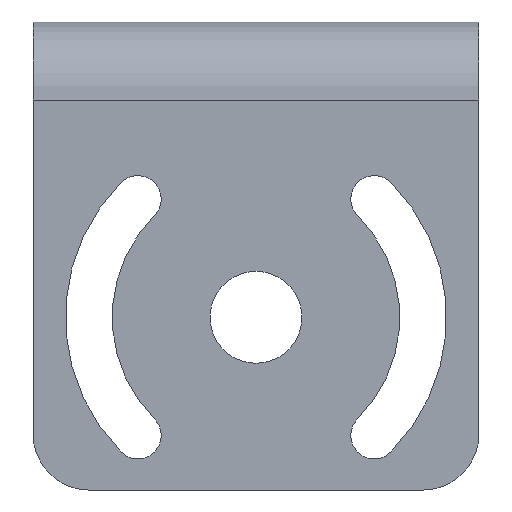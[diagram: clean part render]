
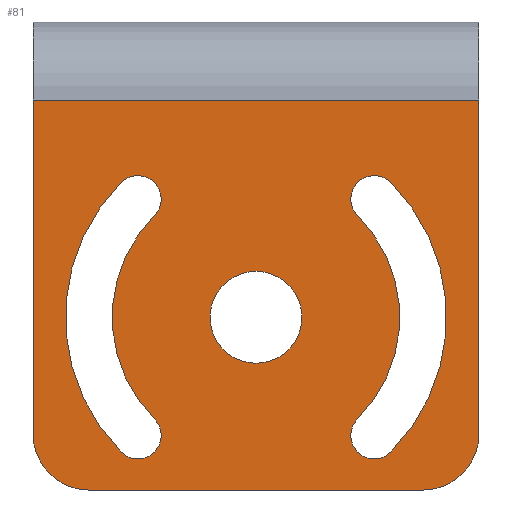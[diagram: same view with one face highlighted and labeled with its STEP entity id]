
A CAD part, left-side view. The second image highlights one B-rep face of the part: STEP entity #81.
In plain terms, the highlighted planar face has unit normal (-1, 0, 0).
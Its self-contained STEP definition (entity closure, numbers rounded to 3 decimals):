
#42=FACE_BOUND('',#170,.T.);
#43=FACE_BOUND('',#171,.T.);
#44=FACE_BOUND('',#172,.T.);
#45=FACE_BOUND('',#173,.T.);
#65=PLANE('',#732);
#81=ADVANCED_FACE('',(#42,#43,#44,#45),#65,.F.);
#170=EDGE_LOOP('',(#334));
#171=EDGE_LOOP('',(#335,#336,#337,#338));
#172=EDGE_LOOP('',(#339,#340,#341,#342));
#173=EDGE_LOOP('',(#343,#344,#345,#346,#347,#348));
#224=LINE('',#1066,#264);
#228=LINE('',#1098,#268);
#229=LINE('',#1102,#269);
#230=LINE('',#1104,#270);
#264=VECTOR('',#849,1.);
#268=VECTOR('',#879,1.);
#269=VECTOR('',#882,1.);
#270=VECTOR('',#883,1.);
#334=ORIENTED_EDGE('',*,*,#580,.T.);
#335=ORIENTED_EDGE('',*,*,#581,.T.);
#336=ORIENTED_EDGE('',*,*,#582,.T.);
#337=ORIENTED_EDGE('',*,*,#583,.T.);
#338=ORIENTED_EDGE('',*,*,#584,.T.);
#339=ORIENTED_EDGE('',*,*,#585,.T.);
#340=ORIENTED_EDGE('',*,*,#586,.T.);
#341=ORIENTED_EDGE('',*,*,#587,.T.);
#342=ORIENTED_EDGE('',*,*,#588,.T.);
#343=ORIENTED_EDGE('',*,*,#574,.T.);
#344=ORIENTED_EDGE('',*,*,#589,.T.);
#345=ORIENTED_EDGE('',*,*,#590,.T.);
#346=ORIENTED_EDGE('',*,*,#591,.T.);
#347=ORIENTED_EDGE('',*,*,#592,.F.);
#348=ORIENTED_EDGE('',*,*,#593,.T.);
#504=VERTEX_POINT('',#1065);
#505=VERTEX_POINT('',#1067);
#510=VERTEX_POINT('',#1079);
#511=VERTEX_POINT('',#1081);
#512=VERTEX_POINT('',#1082);
#513=VERTEX_POINT('',#1084);
#514=VERTEX_POINT('',#1086);
#515=VERTEX_POINT('',#1089);
#516=VERTEX_POINT('',#1090);
#517=VERTEX_POINT('',#1092);
#518=VERTEX_POINT('',#1094);
#519=VERTEX_POINT('',#1097);
#520=VERTEX_POINT('',#1099);
#521=VERTEX_POINT('',#1101);
#522=VERTEX_POINT('',#1103);
#574=EDGE_CURVE('',#505,#504,#224,.T.);
#580=EDGE_CURVE('',#510,#510,#656,.T.);
#581=EDGE_CURVE('',#511,#512,#657,.T.);
#582=EDGE_CURVE('',#512,#513,#658,.T.);
#583=EDGE_CURVE('',#513,#514,#659,.T.);
#584=EDGE_CURVE('',#514,#511,#660,.T.);
#585=EDGE_CURVE('',#515,#516,#661,.T.);
#586=EDGE_CURVE('',#516,#517,#662,.T.);
#587=EDGE_CURVE('',#517,#518,#663,.T.);
#588=EDGE_CURVE('',#518,#515,#664,.T.);
#589=EDGE_CURVE('',#504,#519,#665,.T.);
#590=EDGE_CURVE('',#519,#520,#228,.T.);
#591=EDGE_CURVE('',#520,#521,#666,.T.);
#592=EDGE_CURVE('',#522,#521,#229,.T.);
#593=EDGE_CURVE('',#522,#505,#230,.T.);
#656=CIRCLE('',#721,4.125);
#657=CIRCLE('',#722,2.1);
#658=CIRCLE('',#723,12.9);
#659=CIRCLE('',#724,2.1);
#660=CIRCLE('',#725,17.1);
#661=CIRCLE('',#726,12.9);
#662=CIRCLE('',#727,2.1);
#663=CIRCLE('',#728,17.1);
#664=CIRCLE('',#729,2.1);
#665=CIRCLE('',#730,5.);
#666=CIRCLE('',#731,5.);
#721=AXIS2_PLACEMENT_3D('',#1078,#859,#860);
#722=AXIS2_PLACEMENT_3D('',#1080,#861,#862);
#723=AXIS2_PLACEMENT_3D('',#1083,#863,#864);
#724=AXIS2_PLACEMENT_3D('',#1085,#865,#866);
#725=AXIS2_PLACEMENT_3D('',#1087,#867,#868);
#726=AXIS2_PLACEMENT_3D('',#1088,#869,#870);
#727=AXIS2_PLACEMENT_3D('',#1091,#871,#872);
#728=AXIS2_PLACEMENT_3D('',#1093,#873,#874);
#729=AXIS2_PLACEMENT_3D('',#1095,#875,#876);
#730=AXIS2_PLACEMENT_3D('',#1096,#877,#878);
#731=AXIS2_PLACEMENT_3D('',#1100,#880,#881);
#732=AXIS2_PLACEMENT_3D('',#1105,#884,#885);
#849=DIRECTION('',(0.,0.,-1.));
#859=DIRECTION('',(1.,0.,0.));
#860=DIRECTION('',(0.,1.,0.));
#861=DIRECTION('',(1.,0.,0.));
#862=DIRECTION('',(0.,1.,0.));
#863=DIRECTION('',(-1.,0.,0.));
#864=DIRECTION('',(0.,1.,0.));
#865=DIRECTION('',(1.,0.,0.));
#866=DIRECTION('',(0.,1.,0.));
#867=DIRECTION('',(1.,0.,0.));
#868=DIRECTION('',(0.,1.,0.));
#869=DIRECTION('',(-1.,0.,0.));
#870=DIRECTION('',(0.,1.,0.));
#871=DIRECTION('',(1.,0.,0.));
#872=DIRECTION('',(0.,1.,0.));
#873=DIRECTION('',(1.,0.,0.));
#874=DIRECTION('',(0.,1.,0.));
#875=DIRECTION('',(1.,0.,0.));
#876=DIRECTION('',(0.,1.,0.));
#877=DIRECTION('',(-1.,0.,0.));
#878=DIRECTION('',(0.,1.,0.));
#879=DIRECTION('',(0.,-1.,0.));
#880=DIRECTION('',(-1.,0.,0.));
#881=DIRECTION('',(0.,1.,0.));
#882=DIRECTION('',(0.,0.,-1.));
#883=DIRECTION('',(0.,1.,0.));
#884=DIRECTION('',(1.,0.,0.));
#885=DIRECTION('',(0.,1.,0.));
#1065=CARTESIAN_POINT('',(-62.263,3.515,-33.));
#1066=CARTESIAN_POINT('',(-62.263,3.515,4.));
#1067=CARTESIAN_POINT('',(-62.263,3.515,-3.));
#1078=CARTESIAN_POINT('',(-62.263,-16.485,-22.5));
#1079=CARTESIAN_POINT('',(-62.263,-12.36,-22.5));
#1080=CARTESIAN_POINT('',(-62.263,-5.878,-11.893));
#1081=CARTESIAN_POINT('',(-62.263,-4.393,-10.408));
#1082=CARTESIAN_POINT('',(-62.263,-7.363,-13.378));
#1083=CARTESIAN_POINT('',(-62.263,-16.485,-22.5));
#1084=CARTESIAN_POINT('',(-62.263,-7.363,-31.622));
#1085=CARTESIAN_POINT('',(-62.263,-5.878,-33.107));
#1086=CARTESIAN_POINT('',(-62.263,-4.393,-34.592));
#1087=CARTESIAN_POINT('',(-62.263,-16.485,-22.5));
#1088=CARTESIAN_POINT('',(-62.263,-16.485,-22.5));
#1089=CARTESIAN_POINT('',(-62.263,-25.607,-31.622));
#1090=CARTESIAN_POINT('',(-62.263,-25.607,-13.378));
#1091=CARTESIAN_POINT('',(-62.263,-27.092,-11.893));
#1092=CARTESIAN_POINT('',(-62.263,-28.576,-10.408));
#1093=CARTESIAN_POINT('',(-62.263,-16.485,-22.5));
#1094=CARTESIAN_POINT('',(-62.263,-28.576,-34.592));
#1095=CARTESIAN_POINT('',(-62.263,-27.092,-33.107));
#1096=CARTESIAN_POINT('',(-62.263,-1.485,-33.));
#1097=CARTESIAN_POINT('',(-62.263,-1.485,-38.));
#1098=CARTESIAN_POINT('',(-62.263,3.515,-38.));
#1099=CARTESIAN_POINT('',(-62.263,-31.485,-38.));
#1100=CARTESIAN_POINT('',(-62.263,-31.485,-33.));
#1101=CARTESIAN_POINT('',(-62.263,-36.485,-33.));
#1102=CARTESIAN_POINT('',(-62.263,-36.485,4.));
#1103=CARTESIAN_POINT('',(-62.263,-36.485,-3.));
#1104=CARTESIAN_POINT('',(-62.263,3.515,-3.));
#1105=CARTESIAN_POINT('',(-62.263,3.515,4.));
